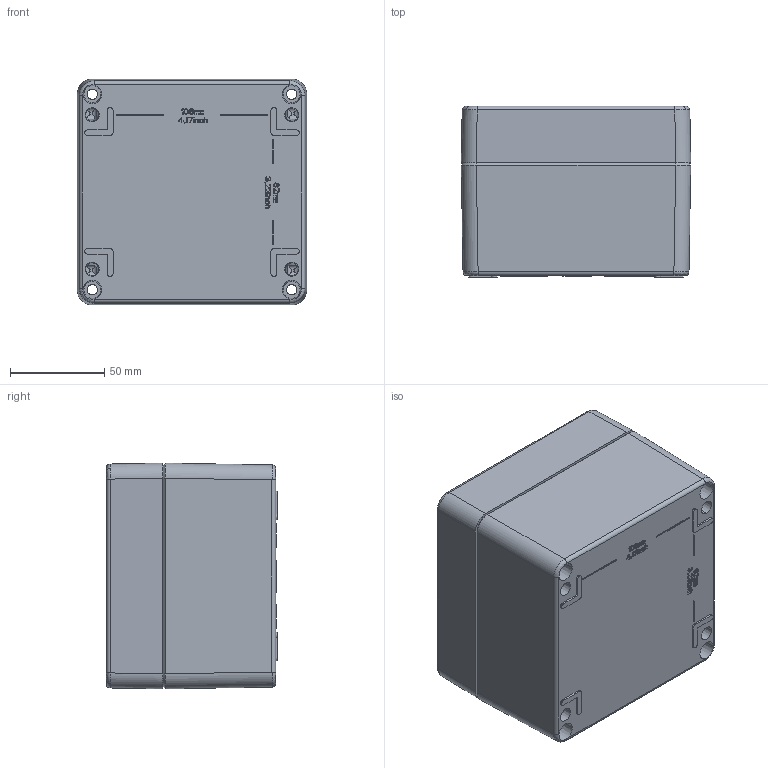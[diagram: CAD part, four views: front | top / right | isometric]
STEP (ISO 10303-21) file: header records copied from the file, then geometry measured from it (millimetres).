
FILE_DESCRIPTION (( 'STEP AP203' ), '1' );
FILE_NAME ('BB052.STEP', '2024-12-26T16:36:52', ( '' ), ( '' ), 'SwSTEP 2.0', 'SolidWorks 2019', '' );
FILE_SCHEMA (( 'CONFIG_CONTROL_DESIGN' ));
Length unit declared in the file: millimetre
Products named in the file (3): BB052; LID_120_122_91; BASE_120_122_91 -2024-1
Assembly tree (2 placements, depth 2):
  BB052
    BASE_120_122_91 -2024-1
    LID_120_122_91
Bounding box: 122 x 91 x 120 mm (x, y, z)
Volume: 359570.5 mm3; surface area: 155483.2 mm2
Topology: 2 solids, 2 shells, 1424 faces, 3805 edges, 2465 vertices
Faces by surface type: plane 965, cylinder 192, bspline 142, cone 125
Entity records: 56057 total; most frequent: CARTESIAN_POINT 21824, ORIENTED_EDGE 7592, DIRECTION 6060, EDGE_CURVE 3796, LINE 2872, VECTOR 2872, VERTEX_POINT 2465, AXIS2_PLACEMENT_3D 1594
